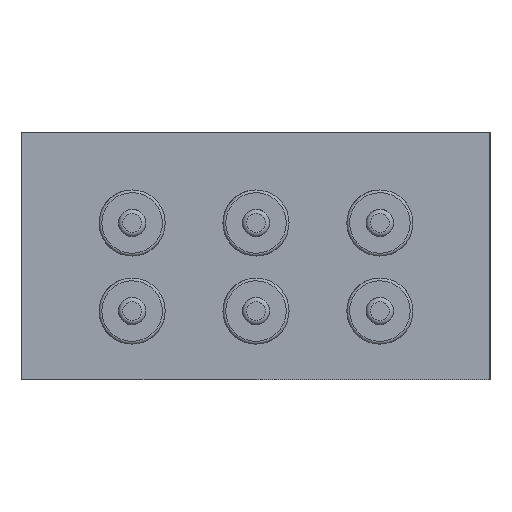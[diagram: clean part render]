
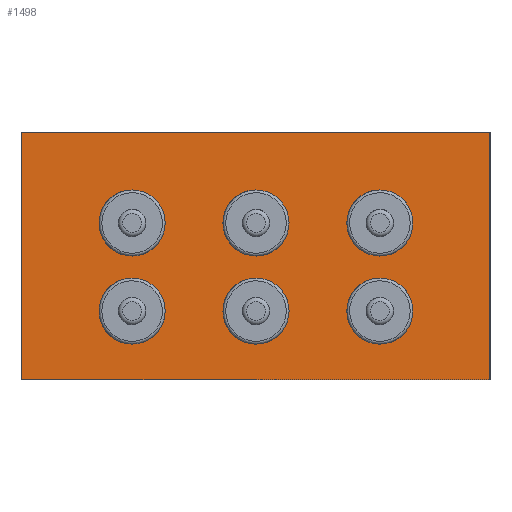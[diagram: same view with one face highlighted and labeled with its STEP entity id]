
A CAD part, left-side view. The second image highlights one B-rep face of the part: STEP entity #1498.
In plain terms, the highlighted planar face has unit normal (-1, 0, 0).
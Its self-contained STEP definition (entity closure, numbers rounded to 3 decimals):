
#59=FACE_BOUND('',#291,.T.);
#60=FACE_BOUND('',#292,.T.);
#61=FACE_BOUND('',#293,.T.);
#62=FACE_BOUND('',#294,.T.);
#63=FACE_BOUND('',#295,.T.);
#64=FACE_BOUND('',#296,.T.);
#177=FACE_OUTER_BOUND('',#290,.T.);
#290=EDGE_LOOP('',(#1058,#1059,#1060,#1061));
#291=EDGE_LOOP('',(#1062));
#292=EDGE_LOOP('',(#1063));
#293=EDGE_LOOP('',(#1064));
#294=EDGE_LOOP('',(#1065));
#295=EDGE_LOOP('',(#1066));
#296=EDGE_LOOP('',(#1067));
#483=LINE('',#2391,#543);
#486=LINE('',#2399,#546);
#489=LINE('',#2403,#549);
#490=LINE('',#2407,#550);
#543=VECTOR('',#1883,10.);
#546=VECTOR('',#1888,10.);
#549=VECTOR('',#1893,10.);
#550=VECTOR('',#1898,10.);
#593=CIRCLE('',#1624,1.2);
#594=CIRCLE('',#1625,1.2);
#595=CIRCLE('',#1626,1.2);
#596=CIRCLE('',#1627,1.2);
#597=CIRCLE('',#1628,1.2);
#598=CIRCLE('',#1629,1.2);
#703=VERTEX_POINT('',#2384);
#706=VERTEX_POINT('',#2389);
#709=VERTEX_POINT('',#2396);
#710=VERTEX_POINT('',#2398);
#712=VERTEX_POINT('',#2408);
#713=VERTEX_POINT('',#2410);
#714=VERTEX_POINT('',#2412);
#715=VERTEX_POINT('',#2414);
#716=VERTEX_POINT('',#2416);
#717=VERTEX_POINT('',#2418);
#853=EDGE_CURVE('',#706,#703,#483,.T.);
#856=EDGE_CURVE('',#710,#709,#486,.T.);
#859=EDGE_CURVE('',#703,#709,#489,.T.);
#861=EDGE_CURVE('',#706,#710,#490,.T.);
#862=EDGE_CURVE('',#712,#712,#593,.T.);
#863=EDGE_CURVE('',#713,#713,#594,.T.);
#864=EDGE_CURVE('',#714,#714,#595,.T.);
#865=EDGE_CURVE('',#715,#715,#596,.T.);
#866=EDGE_CURVE('',#716,#716,#597,.T.);
#867=EDGE_CURVE('',#717,#717,#598,.T.);
#1058=ORIENTED_EDGE('',*,*,#856,.T.);
#1059=ORIENTED_EDGE('',*,*,#859,.F.);
#1060=ORIENTED_EDGE('',*,*,#853,.F.);
#1061=ORIENTED_EDGE('',*,*,#861,.T.);
#1062=ORIENTED_EDGE('',*,*,#862,.T.);
#1063=ORIENTED_EDGE('',*,*,#863,.T.);
#1064=ORIENTED_EDGE('',*,*,#864,.T.);
#1065=ORIENTED_EDGE('',*,*,#865,.T.);
#1066=ORIENTED_EDGE('',*,*,#866,.T.);
#1067=ORIENTED_EDGE('',*,*,#867,.T.);
#1348=PLANE('',#1623);
#1498=ADVANCED_FACE('',(#177,#59,#60,#61,#62,#63,#64),#1348,.T.);
#1623=AXIS2_PLACEMENT_3D('',#2406,#1896,#1897);
#1624=AXIS2_PLACEMENT_3D('',#2409,#1899,#1900);
#1625=AXIS2_PLACEMENT_3D('',#2411,#1901,#1902);
#1626=AXIS2_PLACEMENT_3D('',#2413,#1903,#1904);
#1627=AXIS2_PLACEMENT_3D('',#2415,#1905,#1906);
#1628=AXIS2_PLACEMENT_3D('',#2417,#1907,#1908);
#1629=AXIS2_PLACEMENT_3D('',#2419,#1909,#1910);
#1883=DIRECTION('',(0.,1.,0.));
#1888=DIRECTION('',(0.,1.,0.));
#1893=DIRECTION('',(0.,0.,1.));
#1896=DIRECTION('center_axis',(-1.,0.,0.));
#1897=DIRECTION('ref_axis',(0.,0.,1.));
#1898=DIRECTION('',(0.,0.,1.));
#1899=DIRECTION('center_axis',(1.,0.,0.));
#1900=DIRECTION('ref_axis',(0.,0.,1.));
#1901=DIRECTION('center_axis',(1.,0.,0.));
#1902=DIRECTION('ref_axis',(0.,0.,1.));
#1903=DIRECTION('center_axis',(1.,0.,0.));
#1904=DIRECTION('ref_axis',(0.,0.,1.));
#1905=DIRECTION('center_axis',(1.,0.,0.));
#1906=DIRECTION('ref_axis',(0.,0.,1.));
#1907=DIRECTION('center_axis',(1.,0.,0.));
#1908=DIRECTION('ref_axis',(0.,0.,1.));
#1909=DIRECTION('center_axis',(1.,0.,0.));
#1910=DIRECTION('ref_axis',(0.,0.,1.));
#2384=CARTESIAN_POINT('',(-19.,8.5,0.));
#2389=CARTESIAN_POINT('',(-19.,-8.5,0.));
#2391=CARTESIAN_POINT('',(-19.,-8.5,0.));
#2396=CARTESIAN_POINT('',(-19.,8.5,9.));
#2398=CARTESIAN_POINT('',(-19.,-8.5,9.));
#2399=CARTESIAN_POINT('',(-19.,-8.5,9.));
#2403=CARTESIAN_POINT('',(-19.,8.5,0.));
#2406=CARTESIAN_POINT('Origin',(-19.,-8.5,0.));
#2407=CARTESIAN_POINT('',(-19.,-8.5,0.));
#2408=CARTESIAN_POINT('',(-19.,4.5,6.9));
#2409=CARTESIAN_POINT('Origin',(-19.,4.5,5.7));
#2410=CARTESIAN_POINT('',(-19.,0.,6.9));
#2411=CARTESIAN_POINT('Origin',(-19.,0.,5.7));
#2412=CARTESIAN_POINT('',(-19.,-4.5,6.9));
#2413=CARTESIAN_POINT('Origin',(-19.,-4.5,5.7));
#2414=CARTESIAN_POINT('',(-19.,4.5,3.7));
#2415=CARTESIAN_POINT('Origin',(-19.,4.5,2.5));
#2416=CARTESIAN_POINT('',(-19.,-4.5,3.7));
#2417=CARTESIAN_POINT('Origin',(-19.,-4.5,2.5));
#2418=CARTESIAN_POINT('',(-19.,0.,3.7));
#2419=CARTESIAN_POINT('Origin',(-19.,0.,2.5));
